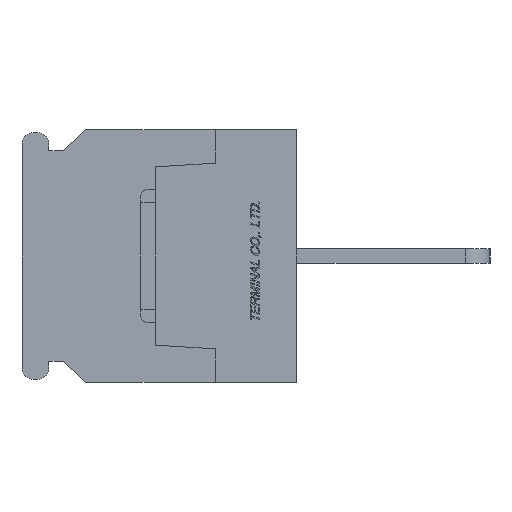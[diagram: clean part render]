
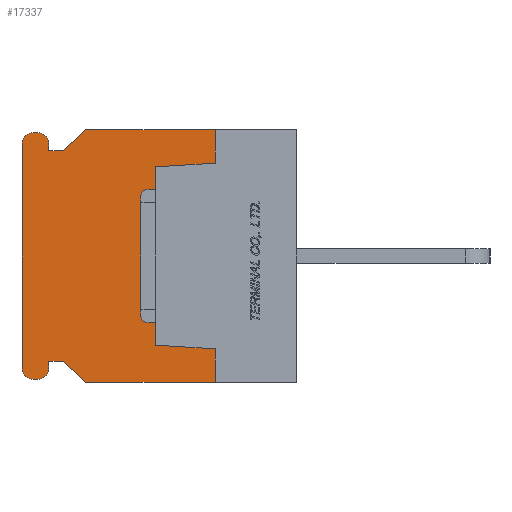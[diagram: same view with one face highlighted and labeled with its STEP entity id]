
A CAD part, left-side view. The second image highlights one B-rep face of the part: STEP entity #17337.
In plain terms, the highlighted planar face has unit normal (-1, 0, 0).
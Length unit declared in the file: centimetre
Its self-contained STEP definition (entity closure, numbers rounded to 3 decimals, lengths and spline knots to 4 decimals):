
#1051=CIRCLE('',#29884,0.075);
#1052=CIRCLE('',#29885,0.075);
#1053=CIRCLE('',#29886,0.075);
#1054=CIRCLE('',#29887,0.075);
#1837=VERTEX_POINT('',#24870);
#1838=VERTEX_POINT('',#24872);
#1888=VERTEX_POINT('',#25001);
#1889=VERTEX_POINT('',#25003);
#2097=VERTEX_POINT('',#25676);
#2098=VERTEX_POINT('',#25678);
#2099=VERTEX_POINT('',#25680);
#2100=VERTEX_POINT('',#25682);
#2101=VERTEX_POINT('',#25684);
#2102=VERTEX_POINT('',#25686);
#2103=VERTEX_POINT('',#25688);
#2104=VERTEX_POINT('',#25690);
#2105=VERTEX_POINT('',#25692);
#2106=VERTEX_POINT('',#25694);
#2107=VERTEX_POINT('',#25696);
#2108=VERTEX_POINT('',#25698);
#2109=VERTEX_POINT('',#25700);
#2110=VERTEX_POINT('',#25703);
#2111=VERTEX_POINT('',#25705);
#2112=VERTEX_POINT('',#25707);
#3507=VECTOR('',#20432,1.);
#3569=VECTOR('',#20520,1.);
#3856=VECTOR('',#21059,1.);
#3857=VECTOR('',#21060,1.);
#3858=VECTOR('',#21061,1.);
#3859=VECTOR('',#21062,1.);
#3860=VECTOR('',#21065,1.);
#3861=VECTOR('',#21068,1.);
#3862=VECTOR('',#21071,1.);
#3863=VECTOR('',#21074,1.);
#3864=VECTOR('',#21075,1.);
#3865=VECTOR('',#21076,1.);
#3866=VECTOR('',#21077,1.);
#3867=VECTOR('',#21078,1.);
#3868=VECTOR('',#21079,1.);
#3869=VECTOR('',#21080,1.);
#5423=LINE('',#24871,#3507);
#5485=LINE('',#25002,#3569);
#5772=LINE('',#25675,#3856);
#5773=LINE('',#25677,#3857);
#5774=LINE('',#25679,#3858);
#5775=LINE('',#25681,#3859);
#5776=LINE('',#25685,#3860);
#5777=LINE('',#25689,#3861);
#5778=LINE('',#25693,#3862);
#5779=LINE('',#25697,#3863);
#5780=LINE('',#25699,#3864);
#5781=LINE('',#25701,#3865);
#5782=LINE('',#25702,#3866);
#5783=LINE('',#25704,#3867);
#5784=LINE('',#25706,#3868);
#5785=LINE('',#25708,#3869);
#7763=EDGE_CURVE('',#1837,#1838,#5423,.T.);
#7829=EDGE_CURVE('',#1888,#1889,#5485,.T.);
#8166=EDGE_CURVE('',#2097,#1889,#5772,.T.);
#8167=EDGE_CURVE('',#2098,#1888,#5773,.T.);
#8168=EDGE_CURVE('',#2099,#2098,#5774,.T.);
#8169=EDGE_CURVE('',#2100,#2099,#5775,.T.);
#8170=EDGE_CURVE('',#2101,#2100,#1051,.T.);
#8171=EDGE_CURVE('',#2102,#2101,#5776,.T.);
#8172=EDGE_CURVE('',#2103,#2102,#1052,.T.);
#8173=EDGE_CURVE('',#2104,#2103,#5777,.T.);
#8174=EDGE_CURVE('',#2105,#2104,#1053,.T.);
#8175=EDGE_CURVE('',#2106,#2105,#5778,.T.);
#8176=EDGE_CURVE('',#2107,#2106,#1054,.T.);
#8177=EDGE_CURVE('',#2108,#2107,#5779,.T.);
#8178=EDGE_CURVE('',#2109,#2108,#5780,.T.);
#8179=EDGE_CURVE('',#1838,#2109,#5781,.T.);
#8180=EDGE_CURVE('',#1837,#2110,#5782,.T.);
#8181=EDGE_CURVE('',#2110,#2111,#5783,.T.);
#8182=EDGE_CURVE('',#2111,#2112,#5784,.T.);
#8183=EDGE_CURVE('',#2112,#2097,#5785,.T.);
#12206=ORIENTED_EDGE('',*,*,#8166,.T.);
#12207=ORIENTED_EDGE('',*,*,#7829,.F.);
#12208=ORIENTED_EDGE('',*,*,#8167,.F.);
#12209=ORIENTED_EDGE('',*,*,#8168,.F.);
#12210=ORIENTED_EDGE('',*,*,#8169,.F.);
#12211=ORIENTED_EDGE('',*,*,#8170,.F.);
#12212=ORIENTED_EDGE('',*,*,#8171,.F.);
#12213=ORIENTED_EDGE('',*,*,#8172,.F.);
#12214=ORIENTED_EDGE('',*,*,#8173,.F.);
#12215=ORIENTED_EDGE('',*,*,#8174,.F.);
#12216=ORIENTED_EDGE('',*,*,#8175,.F.);
#12217=ORIENTED_EDGE('',*,*,#8176,.F.);
#12218=ORIENTED_EDGE('',*,*,#8177,.F.);
#12219=ORIENTED_EDGE('',*,*,#8178,.F.);
#12220=ORIENTED_EDGE('',*,*,#8179,.F.);
#12221=ORIENTED_EDGE('',*,*,#7763,.F.);
#12222=ORIENTED_EDGE('',*,*,#8180,.T.);
#12223=ORIENTED_EDGE('',*,*,#8181,.T.);
#12224=ORIENTED_EDGE('',*,*,#8182,.T.);
#12225=ORIENTED_EDGE('',*,*,#8183,.T.);
#15188=EDGE_LOOP('',(#12206,#12207,#12208,#12209,#12210,#12211,#12212,#12213,
#12214,#12215,#12216,#12217,#12218,#12219,#12220,#12221,#12222,#12223,#12224,
#12225));
#16312=FACE_BOUND('',#15188,.T.);
#17337=ADVANCED_FACE('',(#16312),#18184,.F.);
#18184=PLANE('',#29883);
#20432=DIRECTION('',(0.,1.,0.));
#20520=DIRECTION('',(0.,-1.,0.));
#21058=DIRECTION('',(1.,0.,0.));
#21059=DIRECTION('',(0.,0.,1.));
#21060=DIRECTION('',(0.,-0.731,0.682));
#21061=DIRECTION('',(0.,-1.,0.));
#21062=DIRECTION('',(0.,0.,-1.));
#21063=DIRECTION('',(1.,0.,0.));
#21064=DIRECTION('',(0.,0.,-0.075));
#21065=DIRECTION('',(0.,-1.,0.));
#21066=DIRECTION('',(1.,0.,0.));
#21067=DIRECTION('',(0.,0.,-0.075));
#21068=DIRECTION('',(0.,0.,1.));
#21069=DIRECTION('',(1.,0.,0.));
#21070=DIRECTION('',(0.,0.,-0.075));
#21071=DIRECTION('',(0.,1.,0.));
#21072=DIRECTION('',(1.,0.,0.));
#21073=DIRECTION('',(0.,0.,-0.075));
#21074=DIRECTION('',(0.,0.,-1.));
#21075=DIRECTION('',(0.,1.,0.));
#21076=DIRECTION('',(0.,0.731,0.682));
#21077=DIRECTION('',(0.,0.,1.));
#21078=DIRECTION('',(0.,0.998,0.062));
#21079=DIRECTION('',(0.,0.,1.));
#21080=DIRECTION('',(0.,-0.998,0.062));
#24870=CARTESIAN_POINT('',(-1.,0.55,-0.85));
#24871=CARTESIAN_POINT('',(-1.,0.,-0.85));
#24872=CARTESIAN_POINT('',(-1.,1.42,-0.85));
#25001=CARTESIAN_POINT('',(-1.,1.42,0.85));
#25002=CARTESIAN_POINT('',(-1.,1.42,0.85));
#25003=CARTESIAN_POINT('',(-1.,0.55,0.85));
#25674=CARTESIAN_POINT('',(-1.,0.9383,0.));
#25675=CARTESIAN_POINT('',(-1.,0.55,0.3687));
#25676=CARTESIAN_POINT('',(-1.,0.55,0.625));
#25677=CARTESIAN_POINT('',(-1.,1.57,0.71));
#25678=CARTESIAN_POINT('',(-1.,1.57,0.71));
#25679=CARTESIAN_POINT('',(-1.,1.67,0.71));
#25680=CARTESIAN_POINT('',(-1.,1.67,0.71));
#25681=CARTESIAN_POINT('',(-1.,1.67,0.755));
#25682=CARTESIAN_POINT('',(-1.,1.67,0.755));
#25683=CARTESIAN_POINT('',(-1.,1.745,0.755));
#25684=CARTESIAN_POINT('',(-1.,1.745,0.83));
#25685=CARTESIAN_POINT('',(-1.,1.775,0.83));
#25686=CARTESIAN_POINT('',(-1.,1.775,0.83));
#25687=CARTESIAN_POINT('',(-1.,1.775,0.755));
#25688=CARTESIAN_POINT('',(-1.,1.85,0.755));
#25689=CARTESIAN_POINT('',(-1.,1.85,-0.755));
#25690=CARTESIAN_POINT('',(-1.,1.85,-0.755));
#25691=CARTESIAN_POINT('',(-1.,1.775,-0.755));
#25692=CARTESIAN_POINT('',(-1.,1.775,-0.83));
#25693=CARTESIAN_POINT('',(-1.,1.745,-0.83));
#25694=CARTESIAN_POINT('',(-1.,1.745,-0.83));
#25695=CARTESIAN_POINT('',(-1.,1.745,-0.755));
#25696=CARTESIAN_POINT('',(-1.,1.67,-0.755));
#25697=CARTESIAN_POINT('',(-1.,1.67,-0.71));
#25698=CARTESIAN_POINT('',(-1.,1.67,-0.71));
#25699=CARTESIAN_POINT('',(-1.,1.57,-0.71));
#25700=CARTESIAN_POINT('',(-1.,1.57,-0.71));
#25701=CARTESIAN_POINT('',(-1.,1.42,-0.85));
#25702=CARTESIAN_POINT('',(-1.,0.55,-0.3688));
#25703=CARTESIAN_POINT('',(-1.,0.55,-0.625));
#25704=CARTESIAN_POINT('',(-1.,0.8629,-0.6054));
#25705=CARTESIAN_POINT('',(-1.,0.95,-0.6));
#25706=CARTESIAN_POINT('',(-1.,0.95,0.));
#25707=CARTESIAN_POINT('',(-1.,0.95,0.6));
#25708=CARTESIAN_POINT('',(-1.,0.8629,0.6054));
#29883=AXIS2_PLACEMENT_3D('',#25674,#21058,$);
#29884=AXIS2_PLACEMENT_3D('',#25683,#21063,#21064);
#29885=AXIS2_PLACEMENT_3D('',#25687,#21066,#21067);
#29886=AXIS2_PLACEMENT_3D('',#25691,#21069,#21070);
#29887=AXIS2_PLACEMENT_3D('',#25695,#21072,#21073);
